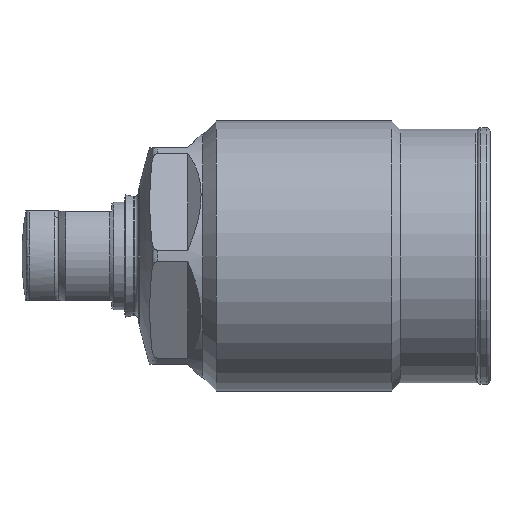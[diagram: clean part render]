
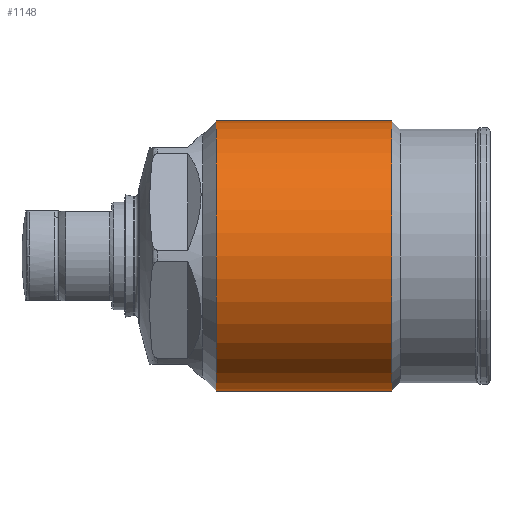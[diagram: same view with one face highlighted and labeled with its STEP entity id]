
A CAD part, left-side view. The second image highlights one B-rep face of the part: STEP entity #1148.
In plain terms, the highlighted cylindrical face has radius 15 mm (diameter 30 mm), a partial arc.
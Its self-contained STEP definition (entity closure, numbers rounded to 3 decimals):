
#944=CYLINDRICAL_SURFACE('',#3705,15.);
#1148=ADVANCED_FACE('',(#1337),#944,.T.);
#1337=FACE_OUTER_BOUND('',#1517,.T.);
#1517=EDGE_LOOP('',(#2332,#2333,#2334,#2335));
#1623=LINE('',#5373,#1718);
#1624=LINE('',#5377,#1719);
#1718=VECTOR('',#4308,1.);
#1719=VECTOR('',#4311,1.);
#2332=ORIENTED_EDGE('',*,*,#2969,.T.);
#2333=ORIENTED_EDGE('',*,*,#3063,.T.);
#2334=ORIENTED_EDGE('',*,*,#2971,.F.);
#2335=ORIENTED_EDGE('',*,*,#3062,.F.);
#2664=VERTEX_POINT('',#5368);
#2665=VERTEX_POINT('',#5370);
#2666=VERTEX_POINT('',#5374);
#2667=VERTEX_POINT('',#5376);
#2969=EDGE_CURVE('',#2666,#2664,#1623,.T.);
#2971=EDGE_CURVE('',#2667,#2665,#1624,.T.);
#3062=EDGE_CURVE('',#2666,#2667,#3327,.T.);
#3063=EDGE_CURVE('',#2664,#2665,#3328,.T.);
#3327=CIRCLE('',#3702,15.);
#3328=CIRCLE('',#3704,15.);
#3702=AXIS2_PLACEMENT_3D('',#5716,#4546,#4547);
#3704=AXIS2_PLACEMENT_3D('',#5718,#4550,#4551);
#3705=AXIS2_PLACEMENT_3D('',#5719,#4552,#4553);
#4308=DIRECTION('',(0.,1.,0.));
#4311=DIRECTION('',(0.,1.,0.));
#4546=DIRECTION('',(0.,-1.,0.));
#4547=DIRECTION('',(0.,0.,-1.));
#4550=DIRECTION('',(0.,-1.,0.));
#4551=DIRECTION('',(0.,0.,-1.));
#4552=DIRECTION('',(0.,-1.,0.));
#4553=DIRECTION('',(0.,0.,1.));
#5368=CARTESIAN_POINT('',(0.,35.522,15.));
#5370=CARTESIAN_POINT('',(0.,35.522,-15.));
#5373=CARTESIAN_POINT('',(0.,0.,15.));
#5374=CARTESIAN_POINT('',(0.,16.022,15.));
#5376=CARTESIAN_POINT('',(0.,16.022,-15.));
#5377=CARTESIAN_POINT('',(0.,0.,-15.));
#5716=CARTESIAN_POINT('',(0.,16.022,0.));
#5718=CARTESIAN_POINT('',(0.,35.522,0.));
#5719=CARTESIAN_POINT('',(0.,0.,0.));
